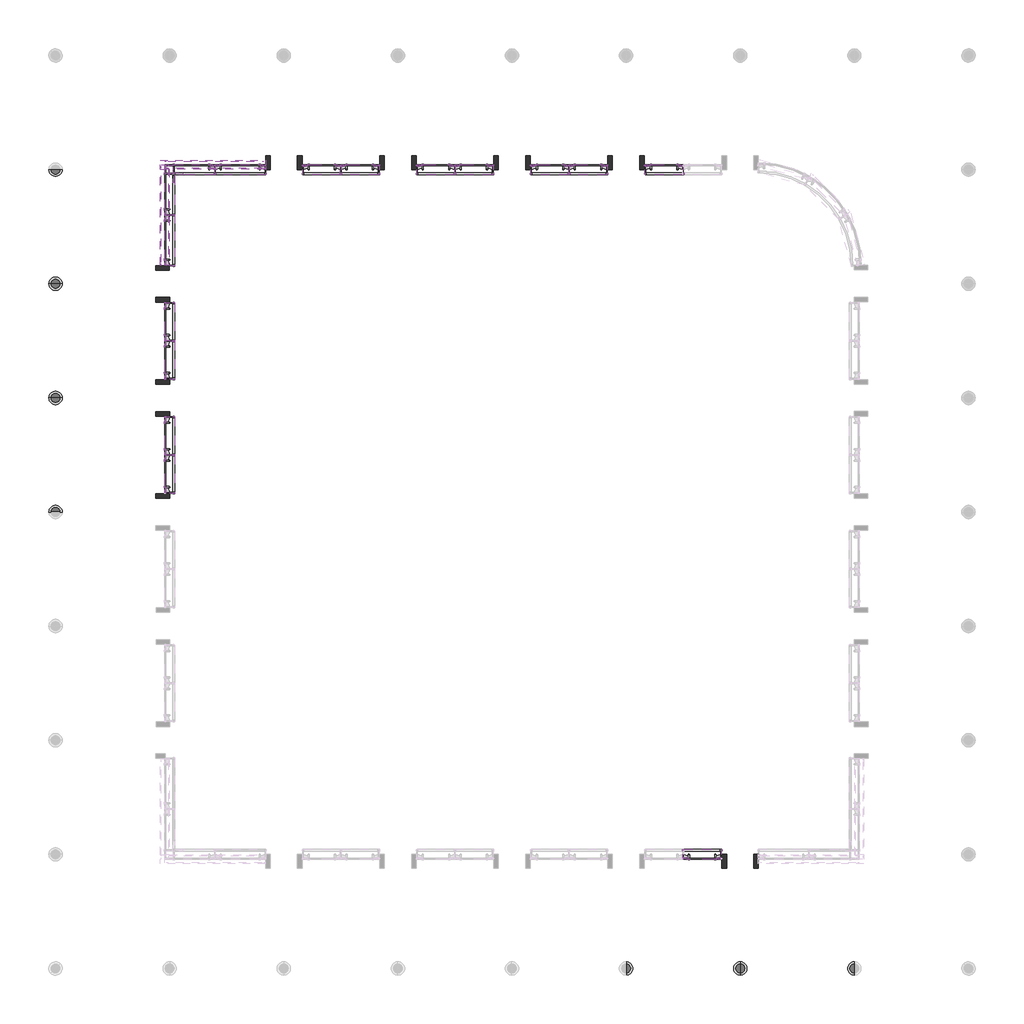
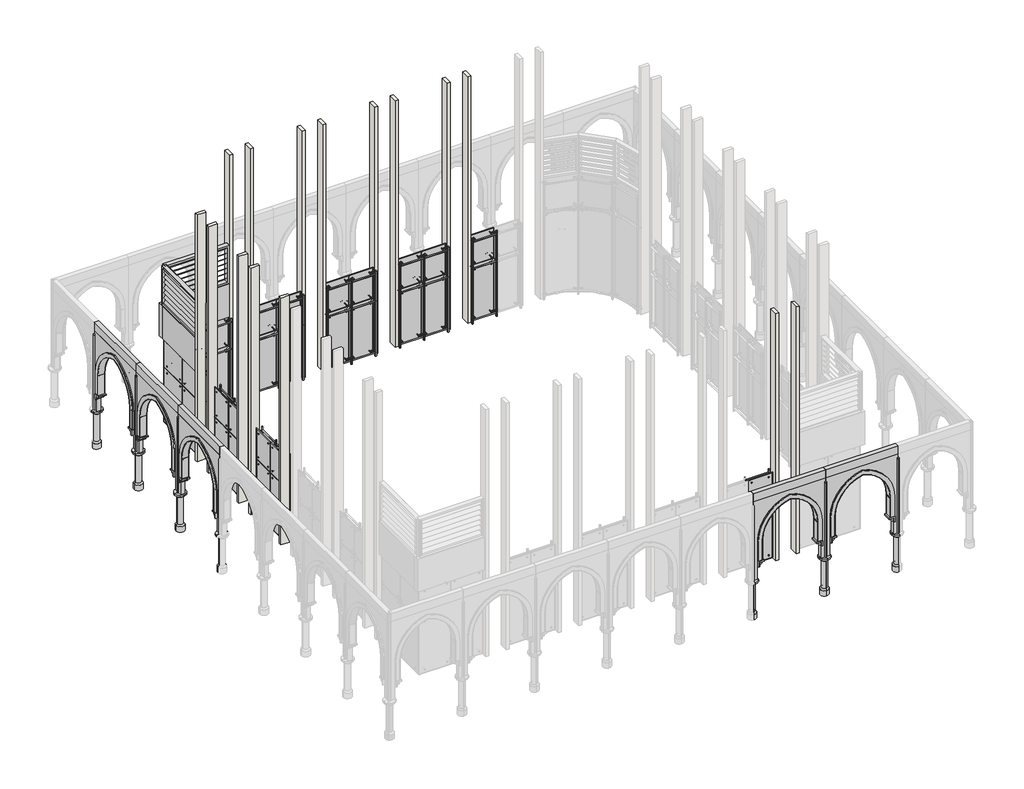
# One storey, part 2 of 3: 61 plates, 15 walls.
"""IFC4 building model written with IfcOpenShell, lengths in millimetres."""

from ifc_helpers import new_model, si_unit, frame, origin, place, context, project, spatial, polyline, outline, extrude, faceted_brep, transform, mapped, element, save
from components import plate_934565e3, plate_2a50b36d, plate_2afd96b2, plate_4a8f0e75, plate_5769654e, plate_b319cc00, plate_6218623b, plate_3c04c4e5, plate_a1d4ab2c, plate_2770a3c2, louvre_assembly_louvre_assembly_d6f96269, system_panel_glazed_8939cce6, system_panel_glazed_fc2bf58b, system_panel_glazed_bbb9c1de, system_panel_glazed_46e9ba5c, template_template_90c3116e, template_template_a81cd723

model = new_model("IFC4")

# Units and contexts
model_context = context("Model", 3, world=origin())
ifc_project = project(units=[si_unit("LENGTHUNIT", "METRE", prefix="MILLI")], contexts=[model_context])

# Site, building, storey
site = spatial("IfcSite", under=ifc_project)
building = spatial("IfcBuilding", under=site)
storey = spatial("IfcBuildingStorey", under=building, Name="00_AR_GF_FFL", Elevation=0.0)

# Plates
placement = place(None, origin())
plate_shape = plate_934565e3(model_context)
element("IfcPlate", 1, ObjectType="FLATNING_TRYOUT : FLATNING_TRYOUT", at=placement, inside=storey, context=model_context, shape_type="MappedRepresentation", body=[
    mapped(plate_shape, transform((-6758.5775323, -1094.430099, 0.0), x_axis=(1.0, 0.0, 0.0), y_axis=(0.0, 1.0, 0.0), z_axis=(0.0, 0.0, 1.0))),
])
element("IfcPlate", 2, ObjectType="FLATNING_TRYOUT : FLATNING_TRYOUT", at=placement, inside=storey, context=model_context, shape_type="MappedRepresentation", body=[
    mapped(plate_shape, transform((-7588.5775323, -1094.430099, 0.0), x_axis=(1.0, 0.0, 0.0), y_axis=(0.0, 1.0, 0.0), z_axis=(0.0, 0.0, 1.0))),
])
element("IfcPlate", 3, ObjectType="FLATNING_TRYOUT : FLATNING_TRYOUT", at=placement, inside=storey, context=model_context, shape_type="MappedRepresentation", body=[
    mapped(plate_shape, transform((-4258.5775323, -1094.430099, 0.0), x_axis=(1.0, 0.0, 0.0), y_axis=(0.0, 1.0, 0.0), z_axis=(0.0, 0.0, 1.0))),
])
element("IfcPlate", 4, ObjectType="FLATNING_TRYOUT : FLATNING_TRYOUT", at=placement, inside=storey, context=model_context, shape_type="MappedRepresentation", body=[
    mapped(plate_shape, transform((-5088.5775323, -1094.430099, 0.0), x_axis=(1.0, 0.0, 0.0), y_axis=(0.0, 1.0, 0.0), z_axis=(0.0, 0.0, 1.0))),
])
element("IfcPlate", 5, ObjectType="FLATNING_TRYOUT : FLATNING_TRYOUT", at=placement, inside=storey, context=model_context, shape_type="MappedRepresentation", body=[
    mapped(plate_shape, transform((-1758.5775323, -1094.430099, 0.0), x_axis=(1.0, 0.0, 0.0), y_axis=(0.0, 1.0, 0.0), z_axis=(0.0, 0.0, 1.0))),
])
element("IfcPlate", 6, ObjectType="FLATNING_TRYOUT : FLATNING_TRYOUT", at=placement, inside=storey, context=model_context, shape_type="MappedRepresentation", body=[
    mapped(plate_shape, transform((-2588.5775323, -1094.430099, 0.0), x_axis=(1.0, 0.0, 0.0), y_axis=(0.0, 1.0, 0.0), z_axis=(0.0, 0.0, 1.0))),
])
element("IfcPlate", 7, ObjectType="FLATNING_TRYOUT : FLATNING_TRYOUT", at=placement, inside=storey, context=model_context, shape_type="MappedRepresentation", body=[
    mapped(plate_shape, transform((-88.5775323, -1094.430099, 0.0), x_axis=(1.0, 0.0, 0.0), y_axis=(0.0, 1.0, 0.0), z_axis=(0.0, 0.0, 1.0))),
])
plate_2_shape = plate_2a50b36d(model_context)
element("IfcPlate", 8, ObjectType="FLATNING_TRYOUT : FLATNING_TRYOUT", at=placement, inside=storey, context=model_context, shape_type="MappedRepresentation", body=[
    mapped(plate_2_shape, transform((-6758.5775323, -1094.430099, 2000.0), x_axis=(1.0, 0.0, 0.0), y_axis=(0.0, 1.0, 0.0), z_axis=(0.0, 0.0, 1.0))),
])
element("IfcPlate", 9, ObjectType="FLATNING_TRYOUT : FLATNING_TRYOUT", at=placement, inside=storey, context=model_context, shape_type="MappedRepresentation", body=[
    mapped(plate_2_shape, transform((-7588.5775323, -1094.430099, 2000.0), x_axis=(1.0, 0.0, 0.0), y_axis=(0.0, 1.0, 0.0), z_axis=(0.0, 0.0, 1.0))),
])
element("IfcPlate", 10, ObjectType="FLATNING_TRYOUT : FLATNING_TRYOUT", at=placement, inside=storey, context=model_context, shape_type="MappedRepresentation", body=[
    mapped(plate_2_shape, transform((-4258.5775323, -1094.430099, 2000.0), x_axis=(1.0, 0.0, 0.0), y_axis=(0.0, 1.0, 0.0), z_axis=(0.0, 0.0, 1.0))),
])
element("IfcPlate", 11, ObjectType="FLATNING_TRYOUT : FLATNING_TRYOUT", at=placement, inside=storey, context=model_context, shape_type="MappedRepresentation", body=[
    mapped(plate_2_shape, transform((-5088.5775323, -1094.430099, 2000.0), x_axis=(1.0, 0.0, 0.0), y_axis=(0.0, 1.0, 0.0), z_axis=(0.0, 0.0, 1.0))),
])
element("IfcPlate", 12, ObjectType="FLATNING_TRYOUT : FLATNING_TRYOUT", at=placement, inside=storey, context=model_context, shape_type="MappedRepresentation", body=[
    mapped(plate_2_shape, transform((-1758.5775323, -1094.430099, 2000.0), x_axis=(1.0, 0.0, 0.0), y_axis=(0.0, 1.0, 0.0), z_axis=(0.0, 0.0, 1.0))),
])
element("IfcPlate", 13, ObjectType="FLATNING_TRYOUT : FLATNING_TRYOUT", at=placement, inside=storey, context=model_context, shape_type="MappedRepresentation", body=[
    mapped(plate_2_shape, transform((-2588.5775323, -1094.430099, 2000.0), x_axis=(1.0, 0.0, 0.0), y_axis=(0.0, 1.0, 0.0), z_axis=(0.0, 0.0, 1.0))),
])
element("IfcPlate", 14, ObjectType="FLATNING_TRYOUT : FLATNING_TRYOUT", at=placement, inside=storey, context=model_context, shape_type="MappedRepresentation", body=[
    mapped(plate_2_shape, transform((-88.5775323, -1094.430099, 2000.0), x_axis=(1.0, 0.0, 0.0), y_axis=(0.0, 1.0, 0.0), z_axis=(0.0, 0.0, 1.0))),
])
plate_3_shape = plate_2afd96b2(model_context)
element("IfcPlate", 15, ObjectType="FLATNING_TRYOUT : FLATNING_TRYOUT", at=placement, inside=storey, context=model_context, shape_type="MappedRepresentation", body=[
    mapped(plate_3_shape, transform((-9376.0775323, -1094.430099, 0.0), x_axis=(-1.0, 0.0, 0.0), y_axis=(0.0, -1.0, 0.0), z_axis=(0.0, 0.0, 1.0))),
])
element("IfcPlate", 16, ObjectType="FLATNING_TRYOUT : FLATNING_TRYOUT", at=placement, inside=storey, context=model_context, shape_type="MappedRepresentation", body=[
    mapped(plate_3_shape, transform((-11033.5775323, -2751.930099, 0.0), x_axis=(0.0, -1.0, 0.0), y_axis=(1.0, 0.0, 0.0), z_axis=(0.0, 0.0, 1.0))),
])
plate_4_shape = plate_4a8f0e75(model_context)
element("IfcPlate", 17, ObjectType="FLATNING_TRYOUT_CORNER : FLATNING_TRYOUT_CORNER", at=placement, inside=storey, context=model_context, shape_type="MappedRepresentation", body=[
    mapped(plate_4_shape, transform((-10481.0775323, -1094.430099, 0.0), x_axis=(-1.0, 0.0, 0.0), y_axis=(0.0, -1.0, 0.0), z_axis=(0.0, 0.0, 1.0))),
])
plate_5_shape = plate_5769654e(model_context)
element("IfcPlate", 18, ObjectType="FLATNING_TRYOUT_CORNER : FLATNING_TRYOUT_CORNER", at=placement, inside=storey, context=model_context, shape_type="MappedRepresentation", body=[
    mapped(plate_5_shape, transform((-11033.5775323, -1646.930099, 0.0), x_axis=(0.0, 1.0, 0.0), y_axis=(-1.0, 0.0, 0.0), z_axis=(0.0, 0.0, 1.0))),
])
plate_6_shape = plate_b319cc00(model_context)
element("IfcPlate", 19, ObjectType="FLATNING_TRYOUT : FLATNING_TRYOUT", at=placement, inside=storey, context=model_context, shape_type="MappedRepresentation", body=[
    mapped(plate_6_shape, transform((-11033.5775323, -5369.430099, 0.0), x_axis=(0.0, -1.0, 0.0), y_axis=(1.0, 0.0, 0.0), z_axis=(0.0, 0.0, 1.0))),
])
element("IfcPlate", 20, ObjectType="FLATNING_TRYOUT : FLATNING_TRYOUT", at=placement, inside=storey, context=model_context, shape_type="MappedRepresentation", body=[
    mapped(plate_6_shape, transform((-11033.5775323, -4539.430099, 0.0), x_axis=(0.0, -1.0, 0.0), y_axis=(1.0, 0.0, 0.0), z_axis=(0.0, 0.0, 1.0))),
])
element("IfcPlate", 21, ObjectType="FLATNING_TRYOUT : FLATNING_TRYOUT", at=placement, inside=storey, context=model_context, shape_type="MappedRepresentation", body=[
    mapped(plate_6_shape, transform((-11033.5775323, -7869.430099, 0.0), x_axis=(0.0, -1.0, 0.0), y_axis=(1.0, 0.0, 0.0), z_axis=(0.0, 0.0, 1.0))),
])
element("IfcPlate", 22, ObjectType="FLATNING_TRYOUT : FLATNING_TRYOUT", at=placement, inside=storey, context=model_context, shape_type="MappedRepresentation", body=[
    mapped(plate_6_shape, transform((-11033.5775323, -7039.430099, 0.0), x_axis=(0.0, -1.0, 0.0), y_axis=(1.0, 0.0, 0.0), z_axis=(0.0, 0.0, 1.0))),
])
element("IfcPlate", 23, ObjectType="FLATNING_TRYOUT : FLATNING_TRYOUT", at=placement, inside=storey, context=model_context, shape_type="MappedRepresentation", body=[
    mapped(plate_6_shape, transform((741.4224677, -16314.430099, 0.0), x_axis=(1.0, 0.0, 0.0), y_axis=(0.0, 1.0, 0.0), z_axis=(0.0, 0.0, 1.0))),
])
plate_7_shape = plate_6218623b(model_context)
element("IfcPlate", 24, ObjectType="FLATNING_TRYOUT : FLATNING_TRYOUT", at=placement, inside=storey, context=model_context, shape_type="MappedRepresentation", body=[
    mapped(plate_7_shape, transform((-11033.5775323, -5369.430099, 2000.0), x_axis=(0.0, -1.0, 0.0), y_axis=(1.0, 0.0, 0.0), z_axis=(0.0, 0.0, 1.0))),
])
element("IfcPlate", 25, ObjectType="FLATNING_TRYOUT : FLATNING_TRYOUT", at=placement, inside=storey, context=model_context, shape_type="MappedRepresentation", body=[
    mapped(plate_7_shape, transform((-11033.5775323, -4539.430099, 2000.0), x_axis=(0.0, -1.0, 0.0), y_axis=(1.0, 0.0, 0.0), z_axis=(0.0, 0.0, 1.0))),
])
element("IfcPlate", 26, ObjectType="FLATNING_TRYOUT : FLATNING_TRYOUT", at=placement, inside=storey, context=model_context, shape_type="MappedRepresentation", body=[
    mapped(plate_7_shape, transform((-11033.5775323, -7869.430099, 2000.0), x_axis=(0.0, -1.0, 0.0), y_axis=(1.0, 0.0, 0.0), z_axis=(0.0, 0.0, 1.0))),
])
element("IfcPlate", 27, ObjectType="FLATNING_TRYOUT : FLATNING_TRYOUT", at=placement, inside=storey, context=model_context, shape_type="MappedRepresentation", body=[
    mapped(plate_7_shape, transform((-11033.5775323, -7039.430099, 2000.0), x_axis=(0.0, -1.0, 0.0), y_axis=(1.0, 0.0, 0.0), z_axis=(0.0, 0.0, 1.0))),
])
element("IfcPlate", 28, ObjectType="FLATNING_TRYOUT : FLATNING_TRYOUT", at=placement, inside=storey, context=model_context, shape_type="MappedRepresentation", body=[
    mapped(plate_7_shape, transform((741.4224677, -16314.430099, 2000.0), x_axis=(1.0, 0.0, 0.0), y_axis=(0.0, 1.0, 0.0), z_axis=(0.0, 0.0, 1.0))),
])
plate_8_shape = plate_3c04c4e5(model_context)
element("IfcPlate", 29, ObjectType="FLATNING_TRYOUT : FLATNING_TRYOUT", at=placement, inside=storey, context=model_context, shape_type="MappedRepresentation", body=[
    mapped(plate_8_shape, transform((-9376.0775323, -1094.430099, 2000.0), x_axis=(-1.0, 0.0, 0.0), y_axis=(0.0, -1.0, 0.0), z_axis=(0.0, 0.0, 1.0))),
])
element("IfcPlate", 30, ObjectType="FLATNING_TRYOUT : FLATNING_TRYOUT", at=placement, inside=storey, context=model_context, shape_type="MappedRepresentation", body=[
    mapped(plate_8_shape, transform((-11033.5775323, -2751.930099, 2000.0), x_axis=(0.0, -1.0, 0.0), y_axis=(1.0, 0.0, 0.0), z_axis=(0.0, 0.0, 1.0))),
])
plate_9_shape = plate_a1d4ab2c(model_context)
element("IfcPlate", 31, ObjectType="FLATNING_TRYOUT_CORNER : FLATNING_TRYOUT_CORNER", at=placement, inside=storey, context=model_context, shape_type="MappedRepresentation", body=[
    mapped(plate_9_shape, transform((-11033.5775323, -1646.930099, 2000.0), x_axis=(0.0, 1.0, 0.0), y_axis=(-1.0, 0.0, 0.0), z_axis=(0.0, 0.0, 1.0))),
])
plate_10_shape = plate_2770a3c2(model_context)
element("IfcPlate", 32, ObjectType="FLATNING_TRYOUT_CORNER : FLATNING_TRYOUT_CORNER", at=placement, inside=storey, context=model_context, shape_type="MappedRepresentation", body=[
    mapped(plate_10_shape, transform((-10481.0775323, -1094.430099, 2000.0), x_axis=(-1.0, 0.0, 0.0), y_axis=(0.0, -1.0, 0.0), z_axis=(0.0, 0.0, 1.0))),
])
element("IfcPlate", 33, ObjectType="Generic - 200mm", at=placement, inside=storey, context=model_context, shape_type="Brep", body=[
    faceted_brep([(-8823.5775323, -994.430099, 3105.0), (-11133.5775323, -994.430099, 3105.0), (-11133.5775323, -994.430099, 4305.0), (-8823.5775323, -994.430099, 4305.0), (-8823.5775323, -1194.430099, 3105.0), (-8823.5775323, -1194.430099, 4305.0), (-10933.5775323, -1194.430099, 4305.0), (-11133.5775323, -1194.430099, 4305.0), (-11133.5775323, -1194.430099, 3105.0), (-10933.5775323, -1194.430099, 3105.0)], [[[0, 1, 2, 3]], [[4, 5, 6, 7, 8, 9]], [[1, 0, 4, 9, 8]], [[3, 2, 7, 6, 5]], [[2, 1, 8, 7]], [[0, 3, 5, 4]]]),
])
element("IfcPlate", 34, ObjectType="Generic - 200mm", at=placement, inside=storey, context=model_context, shape_type="SweptSolid", body=[
    extrude(outline(polyline([(-11133.5775323, -3304.430099), (-11133.5775323, -1194.430099), (-10933.5775323, -1194.430099), (-10933.5775323, -3304.430099), (-11133.5775323, -3304.430099)])), frame((0.0, 0.0, 3105.0), z_axis=(0.0, 0.0, 1.0), x_axis=(1.0, 0.0, 0.0)), (0.0, 0.0, 1.0), 1200.0),
])
louvre_assembly_louvre_assembly_shape = louvre_assembly_louvre_assembly_d6f96269(model_context)
element("IfcPlate", 35, ObjectType="LOUVRE_ASSEMBLY : LOUVRE_ASSEMBLY", at=placement, inside=storey, context=model_context, shape_type="MappedRepresentation", body=[
    mapped(louvre_assembly_louvre_assembly_shape, transform((-11033.5775323, -2199.430099, 4305.0), x_axis=(0.0, -1.0, 0.0), y_axis=(1.0, 0.0, 0.0), z_axis=(0.0, 0.0, 1.0))),
])
element("IfcPlate", 36, ObjectType="LOUVRE_ASSEMBLY : LOUVRE_ASSEMBLY", at=placement, inside=storey, context=model_context, shape_type="MappedRepresentation", body=[
    mapped(louvre_assembly_louvre_assembly_shape, transform((-9928.5775323, -1094.430099, 4305.0), x_axis=(-1.0, 0.0, 0.0), y_axis=(0.0, -1.0, 0.0), z_axis=(0.0, 0.0, 1.0))),
])
system_panel_glazed_shape = system_panel_glazed_8939cce6(model_context)
element("IfcPlate", 37, ObjectType="System Panel : Glazed", at=placement, inside=storey, context=model_context, shape_type="MappedRepresentation", body=[
    mapped(system_panel_glazed_shape, transform((-8013.5775323, -1094.430099, 0.0), x_axis=(1.0, 0.0, 0.0), y_axis=(0.0, 1.0, 0.0), z_axis=(0.0, 0.0, 1.0))),
])
element("IfcPlate", 38, ObjectType="System Panel : Glazed", at=placement, inside=storey, context=model_context, shape_type="MappedRepresentation", body=[
    mapped(system_panel_glazed_shape, transform((-6333.5775323, -1094.430099, 0.0), x_axis=(1.0, 0.0, 0.0), y_axis=(0.0, 1.0, 0.0), z_axis=(0.0, 0.0, 1.0))),
])
element("IfcPlate", 39, ObjectType="System Panel : Glazed", at=placement, inside=storey, context=model_context, shape_type="MappedRepresentation", body=[
    mapped(system_panel_glazed_shape, transform((-5513.5775323, -1094.430099, 0.0), x_axis=(1.0, 0.0, 0.0), y_axis=(0.0, 1.0, 0.0), z_axis=(0.0, 0.0, 1.0))),
])
element("IfcPlate", 40, ObjectType="System Panel : Glazed", at=placement, inside=storey, context=model_context, shape_type="MappedRepresentation", body=[
    mapped(system_panel_glazed_shape, transform((-3833.5775323, -1094.430099, 0.0), x_axis=(1.0, 0.0, 0.0), y_axis=(0.0, 1.0, 0.0), z_axis=(0.0, 0.0, 1.0))),
])
element("IfcPlate", 41, ObjectType="System Panel : Glazed", at=placement, inside=storey, context=model_context, shape_type="MappedRepresentation", body=[
    mapped(system_panel_glazed_shape, transform((-3013.5775323, -1094.430099, 0.0), x_axis=(1.0, 0.0, 0.0), y_axis=(0.0, 1.0, 0.0), z_axis=(0.0, 0.0, 1.0))),
])
element("IfcPlate", 42, ObjectType="System Panel : Glazed", at=placement, inside=storey, context=model_context, shape_type="MappedRepresentation", body=[
    mapped(system_panel_glazed_shape, transform((-1333.5775323, -1094.430099, 0.0), x_axis=(1.0, 0.0, 0.0), y_axis=(0.0, 1.0, 0.0), z_axis=(0.0, 0.0, 1.0))),
])
element("IfcPlate", 43, ObjectType="System Panel : Glazed", at=placement, inside=storey, context=model_context, shape_type="MappedRepresentation", body=[
    mapped(system_panel_glazed_shape, transform((-513.5775323, -1094.430099, 0.0), x_axis=(1.0, 0.0, 0.0), y_axis=(0.0, 1.0, 0.0), z_axis=(0.0, 0.0, 1.0))),
])
system_panel_glazed_2_shape = system_panel_glazed_fc2bf58b(model_context)
element("IfcPlate", 44, ObjectType="System Panel : Glazed", at=placement, inside=storey, context=model_context, shape_type="MappedRepresentation", body=[
    mapped(system_panel_glazed_2_shape, transform((-8013.5775323, -1094.430099, 2000.0), x_axis=(1.0, 0.0, 0.0), y_axis=(0.0, 1.0, 0.0), z_axis=(0.0, 0.0, 1.0))),
])
element("IfcPlate", 45, ObjectType="System Panel : Glazed", at=placement, inside=storey, context=model_context, shape_type="MappedRepresentation", body=[
    mapped(system_panel_glazed_2_shape, transform((-6333.5775323, -1094.430099, 2000.0), x_axis=(1.0, 0.0, 0.0), y_axis=(0.0, 1.0, 0.0), z_axis=(0.0, 0.0, 1.0))),
])
element("IfcPlate", 46, ObjectType="System Panel : Glazed", at=placement, inside=storey, context=model_context, shape_type="MappedRepresentation", body=[
    mapped(system_panel_glazed_2_shape, transform((-5513.5775323, -1094.430099, 2000.0), x_axis=(1.0, 0.0, 0.0), y_axis=(0.0, 1.0, 0.0), z_axis=(0.0, 0.0, 1.0))),
])
element("IfcPlate", 47, ObjectType="System Panel : Glazed", at=placement, inside=storey, context=model_context, shape_type="MappedRepresentation", body=[
    mapped(system_panel_glazed_2_shape, transform((-3833.5775323, -1094.430099, 2000.0), x_axis=(1.0, 0.0, 0.0), y_axis=(0.0, 1.0, 0.0), z_axis=(0.0, 0.0, 1.0))),
])
element("IfcPlate", 48, ObjectType="System Panel : Glazed", at=placement, inside=storey, context=model_context, shape_type="MappedRepresentation", body=[
    mapped(system_panel_glazed_2_shape, transform((-3013.5775323, -1094.430099, 2000.0), x_axis=(1.0, 0.0, 0.0), y_axis=(0.0, 1.0, 0.0), z_axis=(0.0, 0.0, 1.0))),
])
element("IfcPlate", 49, ObjectType="System Panel : Glazed", at=placement, inside=storey, context=model_context, shape_type="MappedRepresentation", body=[
    mapped(system_panel_glazed_2_shape, transform((-1333.5775323, -1094.430099, 2000.0), x_axis=(1.0, 0.0, 0.0), y_axis=(0.0, 1.0, 0.0), z_axis=(0.0, 0.0, 1.0))),
])
element("IfcPlate", 50, ObjectType="System Panel : Glazed", at=placement, inside=storey, context=model_context, shape_type="MappedRepresentation", body=[
    mapped(system_panel_glazed_2_shape, transform((-513.5775323, -1094.430099, 2000.0), x_axis=(1.0, 0.0, 0.0), y_axis=(0.0, 1.0, 0.0), z_axis=(0.0, 0.0, 1.0))),
])
system_panel_glazed_3_shape = system_panel_glazed_bbb9c1de(model_context)
element("IfcPlate", 51, ObjectType="System Panel : Glazed", at=placement, inside=storey, context=model_context, shape_type="MappedRepresentation", body=[
    mapped(system_panel_glazed_3_shape, transform((-11033.5775323, -4114.430099, 0.0), x_axis=(0.0, -1.0, 0.0), y_axis=(1.0, 0.0, 0.0), z_axis=(0.0, 0.0, 1.0))),
])
element("IfcPlate", 52, ObjectType="System Panel : Glazed", at=placement, inside=storey, context=model_context, shape_type="MappedRepresentation", body=[
    mapped(system_panel_glazed_3_shape, transform((-11033.5775323, -5794.430099, 0.0), x_axis=(0.0, -1.0, 0.0), y_axis=(1.0, 0.0, 0.0), z_axis=(0.0, 0.0, 1.0))),
])
element("IfcPlate", 53, ObjectType="System Panel : Glazed", at=placement, inside=storey, context=model_context, shape_type="MappedRepresentation", body=[
    mapped(system_panel_glazed_3_shape, transform((-11033.5775323, -6614.430099, 0.0), x_axis=(0.0, -1.0, 0.0), y_axis=(1.0, 0.0, 0.0), z_axis=(0.0, 0.0, 1.0))),
])
system_panel_glazed_4_shape = system_panel_glazed_46e9ba5c(model_context)
element("IfcPlate", 54, ObjectType="System Panel : Glazed", at=placement, inside=storey, context=model_context, shape_type="MappedRepresentation", body=[
    mapped(system_panel_glazed_4_shape, transform((-11033.5775323, -4114.430099, 2000.0), x_axis=(0.0, -1.0, 0.0), y_axis=(1.0, 0.0, 0.0), z_axis=(0.0, 0.0, 1.0))),
])
element("IfcPlate", 55, ObjectType="System Panel : Glazed", at=placement, inside=storey, context=model_context, shape_type="MappedRepresentation", body=[
    mapped(system_panel_glazed_4_shape, transform((-11033.5775323, -5794.430099, 2000.0), x_axis=(0.0, -1.0, 0.0), y_axis=(1.0, 0.0, 0.0), z_axis=(0.0, 0.0, 1.0))),
])
element("IfcPlate", 56, ObjectType="System Panel : Glazed", at=placement, inside=storey, context=model_context, shape_type="MappedRepresentation", body=[
    mapped(system_panel_glazed_4_shape, transform((-11033.5775323, -6614.430099, 2000.0), x_axis=(0.0, -1.0, 0.0), y_axis=(1.0, 0.0, 0.0), z_axis=(0.0, 0.0, 1.0))),
])
template_template_shape = template_template_90c3116e(model_context)
element("IfcPlate", 57, ObjectType="TEMPLATE : TEMPLATE", at=placement, inside=storey, context=model_context, shape_type="MappedRepresentation", body=[
    mapped(template_template_shape, transform((-13423.5775323, -2454.430099, 0.0), x_axis=(0.0, 1.0, 0.0), y_axis=(-1.0, 0.0, 0.0), z_axis=(0.0, 0.0, 1.0))),
])
element("IfcPlate", 58, ObjectType="TEMPLATE : TEMPLATE", at=placement, inside=storey, context=model_context, shape_type="MappedRepresentation", body=[
    mapped(template_template_shape, transform((-13423.5775323, -4954.430099, 0.0), x_axis=(0.0, 1.0, 0.0), y_axis=(-1.0, 0.0, 0.0), z_axis=(0.0, 0.0, 1.0))),
])
element("IfcPlate", 59, ObjectType="TEMPLATE : TEMPLATE", at=placement, inside=storey, context=model_context, shape_type="MappedRepresentation", body=[
    mapped(template_template_shape, transform((-13423.5775323, -7454.430099, 0.0), x_axis=(0.0, 1.0, 0.0), y_axis=(-1.0, 0.0, 0.0), z_axis=(0.0, 0.0, 1.0))),
])
template_template_2_shape = template_template_a81cd723(model_context)
element("IfcPlate", 60, ObjectType="TEMPLATE : TEMPLATE", at=placement, inside=storey, context=model_context, shape_type="MappedRepresentation", body=[
    mapped(template_template_2_shape, transform((2826.4224677, -18704.430099, 0.0), x_axis=(1.0, 0.0, 0.0), y_axis=(0.0, 1.0, 0.0), z_axis=(0.0, 0.0, 1.0))),
])
element("IfcPlate", 61, ObjectType="TEMPLATE : TEMPLATE", at=placement, inside=storey, context=model_context, shape_type="MappedRepresentation", body=[
    mapped(template_template_2_shape, transform((326.4224677, -18704.430099, 0.0), x_axis=(1.0, 0.0, 0.0), y_axis=(0.0, 1.0, 0.0), z_axis=(0.0, 0.0, 1.0))),
])

# Walls
element("IfcWall", 62, ObjectType="Generic - 100mm", at=placement, inside=storey, context=model_context, shape_type="Brep", body=[
    faceted_brep([(-5623.5775323, -904.430099, 0.0), (-5623.5775323, -1204.430099, 0.0), (-5623.5775323, -1204.430099, 9000.0), (-5623.5775323, -904.430099, 9000.0), (-5623.5775323, -904.430099, 4250.0), (-5623.5775323, -904.430099, 4000.0), (-5523.5775323, -904.430099, 0.0), (-5523.5775323, -904.430099, 4000.0), (-5523.5775323, -904.430099, 4250.0), (-5523.5775323, -904.430099, 9000.0), (-5523.5775323, -1204.430099, 9000.0), (-5523.5775323, -1204.430099, 4305.0), (-5523.5775323, -1204.430099, 3105.0), (-5523.5775323, -1204.430099, 0.0)], [[[0, 1, 2, 3, 4, 5]], [[6, 7, 8, 9, 10, 11, 12, 13]], [[2, 1, 13, 12, 11, 10]], [[1, 0, 6, 13]], [[3, 2, 10, 9]], [[0, 5, 4, 3, 9, 8, 7, 6]]]),
])
element("IfcWall", 63, ObjectType="Generic - 100mm", at=placement, inside=storey, context=model_context, shape_type="Brep", body=[
    faceted_brep([(-3823.5775323, -904.430099, 0.0), (-3823.5775323, -1204.430099, 0.0), (-3823.5775323, -1204.430099, 3105.0), (-3823.5775323, -1204.430099, 4305.0), (-3823.5775323, -1204.430099, 9000.0), (-3823.5775323, -904.430099, 9000.0), (-3823.5775323, -904.430099, 4250.0), (-3823.5775323, -904.430099, 4000.0), (-3723.5775323, -904.430099, 0.0), (-3723.5775323, -904.430099, 4000.0), (-3723.5775323, -904.430099, 4250.0), (-3723.5775323, -904.430099, 9000.0), (-3723.5775323, -1204.430099, 9000.0), (-3723.5775323, -1204.430099, 0.0)], [[[0, 1, 2, 3, 4, 5, 6, 7]], [[8, 9, 10, 11, 12, 13]], [[1, 0, 8, 13]], [[5, 4, 12, 11]], [[0, 7, 6, 5, 11, 10, 9, 8]], [[4, 3, 2, 1, 13, 12]]]),
])
element("IfcWall", 64, ObjectType="Generic - 100mm", at=placement, inside=storey, context=model_context, shape_type="Brep", body=[
    faceted_brep([(-8123.5775323, -904.430099, 0.0), (-8123.5775323, -1204.430099, 0.0), (-8123.5775323, -1204.430099, 9000.0), (-8123.5775323, -904.430099, 9000.0), (-8123.5775323, -904.430099, 4250.0), (-8123.5775323, -904.430099, 4000.0), (-8023.5775323, -904.430099, 0.0), (-8023.5775323, -904.430099, 4000.0), (-8023.5775323, -904.430099, 4250.0), (-8023.5775323, -904.430099, 9000.0), (-8023.5775323, -1204.430099, 9000.0), (-8023.5775323, -1204.430099, 5700.0), (-8023.5775323, -1204.430099, 4305.0), (-8023.5775323, -1204.430099, 3105.0), (-8023.5775323, -1204.430099, 0.0)], [[[0, 1, 2, 3, 4, 5]], [[6, 7, 8, 9, 10, 11, 12, 13, 14]], [[2, 1, 14, 13, 12, 11, 10]], [[1, 0, 6, 14]], [[3, 2, 10, 9]], [[0, 5, 4, 3, 9, 8, 7, 6]]]),
])
element("IfcWall", 65, ObjectType="Generic - 100mm", at=placement, inside=storey, context=model_context, shape_type="Brep", body=[
    faceted_brep([(-6323.5775323, -904.430099, 0.0), (-6323.5775323, -1204.430099, 0.0), (-6323.5775323, -1204.430099, 3105.0), (-6323.5775323, -1204.430099, 4305.0), (-6323.5775323, -1204.430099, 5700.0), (-6323.5775323, -1204.430099, 9000.0), (-6323.5775323, -904.430099, 9000.0), (-6323.5775323, -904.430099, 4250.0), (-6323.5775323, -904.430099, 4000.0), (-6223.5775323, -904.430099, 0.0), (-6223.5775323, -904.430099, 4000.0), (-6223.5775323, -904.430099, 4250.0), (-6223.5775323, -904.430099, 9000.0), (-6223.5775323, -1204.430099, 9000.0), (-6223.5775323, -1204.430099, 0.0)], [[[0, 1, 2, 3, 4, 5, 6, 7, 8]], [[9, 10, 11, 12, 13, 14]], [[5, 4, 3, 2, 1, 14, 13]], [[1, 0, 9, 14]], [[6, 5, 13, 12]], [[0, 8, 7, 6, 12, 11, 10, 9]]]),
])
element("IfcWall", 66, ObjectType="Generic - 100mm", at=placement, inside=storey, context=model_context, shape_type="Brep", body=[
    faceted_brep([(-3123.5775323, -904.430099, 0.0), (-3123.5775323, -1204.430099, 0.0), (-3123.5775323, -1204.430099, 9000.0), (-3123.5775323, -904.430099, 9000.0), (-3123.5775323, -904.430099, 4250.0), (-3123.5775323, -904.430099, 4000.0), (-3023.5775323, -904.430099, 0.0), (-3023.5775323, -904.430099, 4000.0), (-3023.5775323, -904.430099, 4250.0), (-3023.5775323, -904.430099, 9000.0), (-3023.5775323, -1204.430099, 9000.0), (-3023.5775323, -1204.430099, 5700.0), (-3023.5775323, -1204.430099, 0.0)], [[[0, 1, 2, 3, 4, 5]], [[6, 7, 8, 9, 10, 11, 12]], [[2, 1, 12, 11, 10]], [[1, 0, 6, 12]], [[3, 2, 10, 9]], [[0, 5, 4, 3, 9, 8, 7, 6]]]),
])
element("IfcWall", 67, ObjectType="Generic - 100mm", at=placement, inside=storey, context=model_context, shape_type="Brep", body=[
    faceted_brep([(-1323.5775323, -904.430099, 0.0), (-1323.5775323, -1204.430099, 0.0), (-1323.5775323, -1204.430099, 5700.0), (-1323.5775323, -1204.430099, 9000.0), (-1323.5775323, -904.430099, 9000.0), (-1323.5775323, -904.430099, 4250.0), (-1323.5775323, -904.430099, 4000.0), (-1223.5775323, -904.430099, 0.0), (-1223.5775323, -904.430099, 4000.0), (-1223.5775323, -904.430099, 4250.0), (-1223.5775323, -904.430099, 9000.0), (-1223.5775323, -1204.430099, 9000.0), (-1223.5775323, -1204.430099, 0.0)], [[[0, 1, 2, 3, 4, 5, 6]], [[7, 8, 9, 10, 11, 12]], [[3, 2, 1, 12, 11]], [[1, 0, 7, 12]], [[4, 3, 11, 10]], [[0, 6, 5, 4, 10, 9, 8, 7]]]),
])
element("IfcWall", 68, ObjectType="Generic - 100mm", at=placement, inside=storey, context=model_context, shape_type="Brep", body=[
    faceted_brep([(-623.5775323, -904.430099, 0.0), (-623.5775323, -1204.430099, 0.0), (-623.5775323, -1204.430099, 9000.0), (-623.5775323, -904.430099, 9000.0), (-623.5775323, -904.430099, 4250.0), (-623.5775323, -904.430099, 4000.0), (-523.5775323, -904.430099, 0.0), (-523.5775323, -904.430099, 4000.0), (-523.5775323, -904.430099, 4250.0), (-523.5775323, -904.430099, 9000.0), (-523.5775323, -1204.430099, 9000.0), (-523.5775323, -1204.430099, 5700.0), (-523.5775323, -1204.430099, 4305.0), (-523.5775323, -1204.430099, 3105.0), (-523.5775323, -1204.430099, 0.0)], [[[0, 1, 2, 3, 4, 5]], [[6, 7, 8, 9, 10, 11, 12, 13, 14]], [[2, 1, 14, 13, 12, 11, 10]], [[1, 0, 6, 14]], [[3, 2, 10, 9]], [[0, 5, 4, 3, 9, 8, 7, 6]]]),
])
element("IfcWall", 69, ObjectType="Generic - 100mm", at=placement, inside=storey, context=model_context, shape_type="Brep", body=[
    faceted_brep([(-8823.5775323, -904.430099, 0.0), (-8823.5775323, -1204.430099, 0.0), (-8823.5775323, -1204.430099, 5700.0), (-8823.5775323, -1204.430099, 6100.0), (-8823.5775323, -1204.430099, 8300.0), (-8823.5775323, -1204.430099, 9000.0), (-8823.5775323, -904.430099, 9000.0), (-8823.5775323, -904.430099, 4250.0), (-8823.5775323, -904.430099, 4000.0), (-8723.5775323, -904.430099, 0.0), (-8723.5775323, -904.430099, 4000.0), (-8723.5775323, -904.430099, 4250.0), (-8723.5775323, -904.430099, 9000.0), (-8723.5775323, -1204.430099, 9000.0), (-8723.5775323, -1204.430099, 0.0)], [[[0, 1, 2, 3, 4, 5, 6, 7, 8]], [[9, 10, 11, 12, 13, 14]], [[5, 4, 3, 2, 1, 14, 13]], [[1, 0, 9, 14]], [[6, 5, 13, 12]], [[0, 8, 7, 6, 12, 11, 10, 9]]]),
])
element("IfcWall", 70, ObjectType="Generic - 100mm", at=placement, inside=storey, context=model_context, shape_type="Brep", body=[
    faceted_brep([(-11223.5775323, -3404.430099, 0.0), (-10933.5775323, -3404.430099, 0.0), (-10933.5775323, -3404.430099, 5700.0), (-10921.3871887, -3404.430099, 5700.0), (-10921.3871887, -3404.430099, 9000.0), (-10923.5775323, -3404.430099, 9000.0), (-11223.5775323, -3404.430099, 9000.0), (-11223.5775323, -3404.430099, 4250.0), (-11223.5775323, -3404.430099, 4000.0), (-11223.5775323, -3304.430099, 0.0), (-11223.5775323, -3304.430099, 4000.0), (-11223.5775323, -3304.430099, 4250.0), (-11223.5775323, -3304.430099, 9000.0), (-10923.5775323, -3304.430099, 9000.0), (-10921.3871887, -3304.430099, 9000.0), (-10921.3871887, -3304.430099, 8300.0), (-10921.3871887, -3304.430099, 6100.0), (-10921.3871887, -3304.430099, 5700.0), (-10933.5775323, -3304.430099, 5700.0), (-10933.5775323, -3304.430099, 4305.0), (-10933.5775323, -3304.430099, 3105.0), (-10933.5775323, -3304.430099, 0.0)], [[[0, 1, 2, 3, 4, 5, 6, 7, 8]], [[9, 10, 11, 12, 13, 14, 15, 16, 17, 18, 19, 20, 21]], [[2, 1, 21, 20, 19, 18]], [[4, 3, 17, 16, 15, 14]], [[1, 0, 9, 21]], [[6, 5, 4, 14, 13, 12]], [[0, 8, 7, 6, 12, 11, 10, 9]], [[17, 3, 2, 18]]]),
])
element("IfcWall", 71, ObjectType="Generic - 100mm", at=placement, inside=storey, context=model_context, shape_type="Brep", body=[
    faceted_brep([(1276.4224677, -16504.430099, 0.0), (1276.4224677, -16204.430099, 0.0), (1276.4224677, -16204.430099, 9000.0), (1276.4224677, -16504.430099, 9000.0), (1276.4224677, -16504.430099, 4250.0), (1276.4224677, -16504.430099, 4000.0), (1176.4224677, -16504.430099, 0.0), (1176.4224677, -16504.430099, 4000.0), (1176.4224677, -16504.430099, 4250.0), (1176.4224677, -16504.430099, 9000.0), (1176.4224677, -16204.430099, 9000.0), (1176.4224677, -16204.430099, 5700.0), (1176.4224677, -16204.430099, 4305.0), (1176.4224677, -16204.430099, 3105.0), (1176.4224677, -16204.430099, 0.0)], [[[0, 1, 2, 3, 4, 5]], [[6, 7, 8, 9, 10, 11, 12, 13, 14]], [[2, 1, 14, 13, 12, 11, 10]], [[1, 0, 6, 14]], [[3, 2, 10, 9]], [[0, 5, 4, 3, 9, 8, 7, 6]]]),
])
element("IfcWall", 72, ObjectType="Generic - 100mm", at=placement, inside=storey, context=model_context, shape_type="Brep", body=[
    faceted_brep([(1976.4224677, -16504.430099, 0.0), (1976.4224677, -16204.430099, 0.0), (1976.4224677, -16204.430099, 8300.0), (1976.4224677, -16204.430099, 9000.0), (1976.4224677, -16504.430099, 9000.0), (1976.4224677, -16504.430099, 4250.0), (1976.4224677, -16504.430099, 4000.0), (1876.4224677, -16504.430099, 0.0), (1876.4224677, -16504.430099, 4000.0), (1876.4224677, -16504.430099, 4250.0), (1876.4224677, -16504.430099, 9000.0), (1876.4224677, -16204.430099, 9000.0), (1876.4224677, -16204.430099, 0.0)], [[[0, 1, 2, 3, 4, 5, 6]], [[7, 8, 9, 10, 11, 12]], [[3, 2, 1, 12, 11]], [[1, 0, 7, 12]], [[4, 3, 11, 10]], [[0, 6, 5, 4, 10, 9, 8, 7]]]),
])
element("IfcWall", 73, ObjectType="Generic - 100mm", at=placement, inside=storey, context=model_context, shape_type="Brep", body=[
    faceted_brep([(-11223.5775323, -4104.430099, 0.0), (-10923.5775323, -4104.430099, 0.0), (-10923.5775323, -4104.430099, 3105.0), (-10923.5775323, -4104.430099, 4305.0), (-10923.5775323, -4104.430099, 9000.0), (-11223.5775323, -4104.430099, 9000.0), (-11223.5775323, -4104.430099, 4250.0), (-11223.5775323, -4104.430099, 4000.0), (-11223.5775323, -4004.430099, 0.0), (-11223.5775323, -4004.430099, 4000.0), (-11223.5775323, -4004.430099, 4250.0), (-11223.5775323, -4004.430099, 9000.0), (-10923.5775323, -4004.430099, 9000.0), (-10923.5775323, -4004.430099, 0.0)], [[[0, 1, 2, 3, 4, 5, 6, 7]], [[8, 9, 10, 11, 12, 13]], [[1, 0, 8, 13]], [[5, 4, 12, 11]], [[0, 7, 6, 5, 11, 10, 9, 8]], [[4, 3, 2, 1, 13, 12]]]),
])
element("IfcWall", 74, ObjectType="Generic - 100mm", at=placement, inside=storey, context=model_context, shape_type="Brep", body=[
    faceted_brep([(-11223.5775323, -5904.430099, 0.0), (-10923.5775323, -5904.430099, 0.0), (-10923.5775323, -5904.430099, 9000.0), (-11223.5775323, -5904.430099, 9000.0), (-11223.5775323, -5904.430099, 4250.0), (-11223.5775323, -5904.430099, 4000.0), (-11223.5775323, -5804.430099, 0.0), (-11223.5775323, -5804.430099, 4000.0), (-11223.5775323, -5804.430099, 4250.0), (-11223.5775323, -5804.430099, 9000.0), (-10923.5775323, -5804.430099, 9000.0), (-10923.5775323, -5804.430099, 4305.0), (-10923.5775323, -5804.430099, 3105.0), (-10923.5775323, -5804.430099, 0.0)], [[[0, 1, 2, 3, 4, 5]], [[6, 7, 8, 9, 10, 11, 12, 13]], [[1, 0, 6, 13]], [[3, 2, 10, 9]], [[0, 5, 4, 3, 9, 8, 7, 6]], [[2, 1, 13, 12, 11, 10]]]),
])
element("IfcWall", 75, ObjectType="Generic - 100mm", at=placement, inside=storey, context=model_context, shape_type="Brep", body=[
    faceted_brep([(-11223.5775323, -6604.430099, 0.0), (-10923.5775323, -6604.430099, 0.0), (-10923.5775323, -6604.430099, 3105.0), (-10923.5775323, -6604.430099, 4305.0), (-10923.5775323, -6604.430099, 9000.0), (-11223.5775323, -6604.430099, 9000.0), (-11223.5775323, -6604.430099, 4250.0), (-11223.5775323, -6604.430099, 4000.0), (-11223.5775323, -6504.430099, 0.0), (-11223.5775323, -6504.430099, 4000.0), (-11223.5775323, -6504.430099, 4250.0), (-11223.5775323, -6504.430099, 9000.0), (-10923.5775323, -6504.430099, 9000.0), (-10923.5775323, -6504.430099, 0.0)], [[[0, 1, 2, 3, 4, 5, 6, 7]], [[8, 9, 10, 11, 12, 13]], [[1, 0, 8, 13]], [[5, 4, 12, 11]], [[0, 7, 6, 5, 11, 10, 9, 8]], [[4, 3, 2, 1, 13, 12]]]),
])
element("IfcWall", 76, ObjectType="Generic - 100mm", at=placement, inside=storey, context=model_context, shape_type="Brep", body=[
    faceted_brep([(-11223.5775323, -8404.430099, 0.0), (-10923.5775323, -8404.430099, 0.0), (-10923.5775323, -8404.430099, 9000.0), (-11223.5775323, -8404.430099, 9000.0), (-11223.5775323, -8404.430099, 4250.0), (-11223.5775323, -8404.430099, 4000.0), (-11223.5775323, -8304.430099, 0.0), (-11223.5775323, -8304.430099, 4000.0), (-11223.5775323, -8304.430099, 4250.0), (-11223.5775323, -8304.430099, 9000.0), (-10923.5775323, -8304.430099, 9000.0), (-10923.5775323, -8304.430099, 4305.0), (-10923.5775323, -8304.430099, 3105.0), (-10923.5775323, -8304.430099, 0.0)], [[[0, 1, 2, 3, 4, 5]], [[6, 7, 8, 9, 10, 11, 12, 13]], [[1, 0, 6, 13]], [[3, 2, 10, 9]], [[0, 5, 4, 3, 9, 8, 7, 6]], [[2, 1, 13, 12, 11, 10]]]),
])

save(model, "model.ifc")
